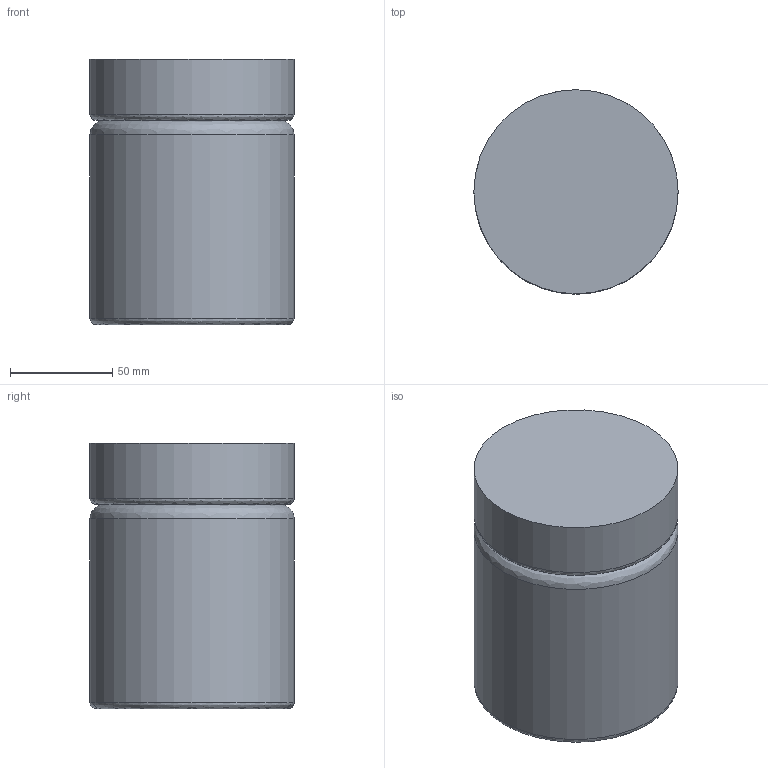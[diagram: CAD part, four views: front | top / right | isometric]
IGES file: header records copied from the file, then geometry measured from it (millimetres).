
Start section: SolidWorks IGES file using analytic representation for surfaces
Global section: file name: X:\PRODUKT\Modele 3D_WWW\_KOLEKCJE WWW\CAYO-9505-8055\CAYO-9505-8055.IGS; native system: SolidWorks 2021; preprocessor: SolidWorks 2021; author: gabriela.tworek; date: 221109.085411; units: millimetre
Bounding box: 100 x 100 x 130 mm (x, y, z)
Surface area: 100791.4 mm2 (no closed solid volume)
Topology: 0 solids, 0 shells, 12 faces, 30 edges, 22 vertices
Faces by surface type: revolution 8, bspline 4
